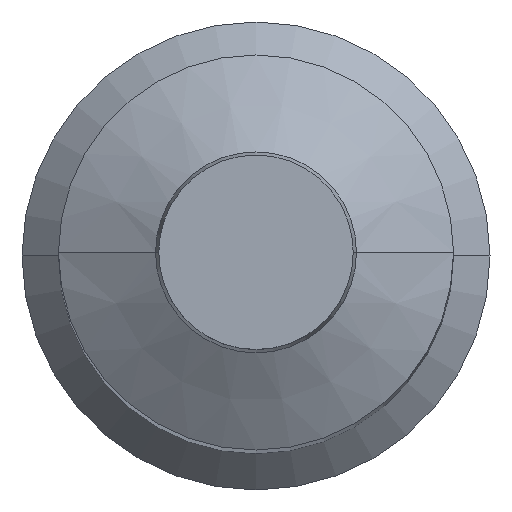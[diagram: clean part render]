
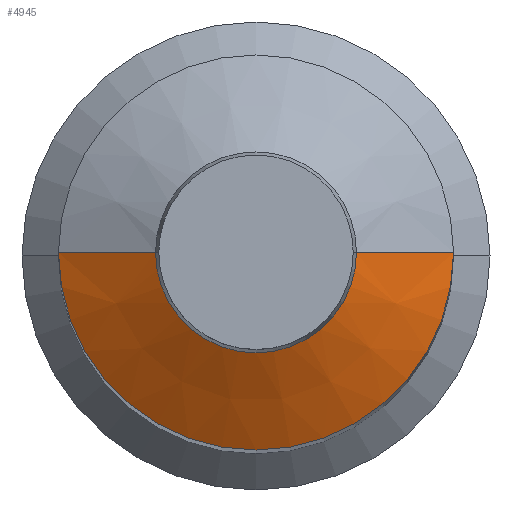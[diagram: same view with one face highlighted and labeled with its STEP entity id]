
A CAD part, top view. The second image highlights one B-rep face of the part: STEP entity #4945.
In plain terms, the highlighted conical face has half-angle 60 degrees and reference radius 32.5 mm.
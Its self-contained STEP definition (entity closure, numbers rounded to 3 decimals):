
#1278 = CARTESIAN_POINT ( 'NONE',  ( -32.5, 0., 377.983 ) ) ;
#1377 = CARTESIAN_POINT ( 'NONE',  ( 16.536, 0., 387.2 ) ) ;
#1475 = CARTESIAN_POINT ( 'NONE',  ( -16.536, 0., 387.2 ) ) ;
#1582 = CARTESIAN_POINT ( 'NONE',  ( 32.5, 0., 377.983 ) ) ;
#1891 = VERTEX_POINT ( 'NONE', #1475 ) ;
#1892 = VERTEX_POINT ( 'NONE', #1377 ) ;
#1895 = VERTEX_POINT ( 'NONE', #1278 ) ;
#1897 = VERTEX_POINT ( 'NONE', #1582 ) ;
#2466 = AXIS2_PLACEMENT_3D ( 'NONE', #8797, #8798, #8799 ) ;
#2811 = AXIS2_PLACEMENT_3D ( 'NONE', #15495, #15496, #15497 ) ;
#2845 = AXIS2_PLACEMENT_3D ( 'NONE', #15846, #15847, #15848 ) ;
#4945 = ADVANCED_FACE ( 'NONE', ( #10952 ), #10958, .T. ) ;
#6028 = ORIENTED_EDGE ( 'NONE', *, *, #8292, .F. ) ;
#6033 = ORIENTED_EDGE ( 'NONE', *, *, #8350, .T. ) ;
#6037 = ORIENTED_EDGE ( 'NONE', *, *, #8294, .F. ) ;
#6042 = ORIENTED_EDGE ( 'NONE', *, *, #8351, .T. ) ;
#6554 = EDGE_LOOP ( 'NONE', ( #6033, #6042, #6028, #6037 ) ) ;
#8292 = EDGE_CURVE ( 'NONE', #1897, #1895, #14745, .T. ) ;
#8294 = EDGE_CURVE ( 'NONE', #1892, #1897, #14746, .T. ) ;
#8350 = EDGE_CURVE ( 'NONE', #1892, #1891, #16228, .T. ) ;
#8351 = EDGE_CURVE ( 'NONE', #1891, #1895, #16227, .T. ) ;
#8797 = CARTESIAN_POINT ( 'NONE',  ( 0., 0., 377.983 ) ) ;
#8798 = DIRECTION ( 'NONE',  ( 0., 0., -1. ) ) ;
#8799 = DIRECTION ( 'NONE',  ( 1., 0., 0. ) ) ;
#10952 = FACE_OUTER_BOUND ( 'NONE', #6554, .T. ) ;
#10958 = CONICAL_SURFACE ( 'NONE', #2466, 32.5, 1.047 ) ;
#14745 = CIRCLE ( 'NONE', #2811, 32.5 ) ;
#14746 = LINE ( 'NONE', #15501, #14748 ) ;
#14748 = VECTOR ( 'NONE', #15502, 1000. ) ;
#15495 = CARTESIAN_POINT ( 'NONE',  ( 0., 0., 377.983 ) ) ;
#15496 = DIRECTION ( 'NONE',  ( 0., 0., -1. ) ) ;
#15497 = DIRECTION ( 'NONE',  ( 1., 0., 0. ) ) ;
#15501 = CARTESIAN_POINT ( 'NONE',  ( 32.5, 0., 377.983 ) ) ;
#15502 = DIRECTION ( 'NONE',  ( 0.866, 0., -0.5 ) ) ;
#15846 = CARTESIAN_POINT ( 'NONE',  ( 0., 0., 387.2 ) ) ;
#15847 = DIRECTION ( 'NONE',  ( 0., 0., -1. ) ) ;
#15848 = DIRECTION ( 'NONE',  ( 1., 0., 0. ) ) ;
#15849 = CARTESIAN_POINT ( 'NONE',  ( -32.5, 0., 377.983 ) ) ;
#15850 = DIRECTION ( 'NONE',  ( -0.866, 0., -0.5 ) ) ;
#16227 = LINE ( 'NONE', #15849, #16229 ) ;
#16228 = CIRCLE ( 'NONE', #2845, 16.536 ) ;
#16229 = VECTOR ( 'NONE', #15850, 1000. ) ;
